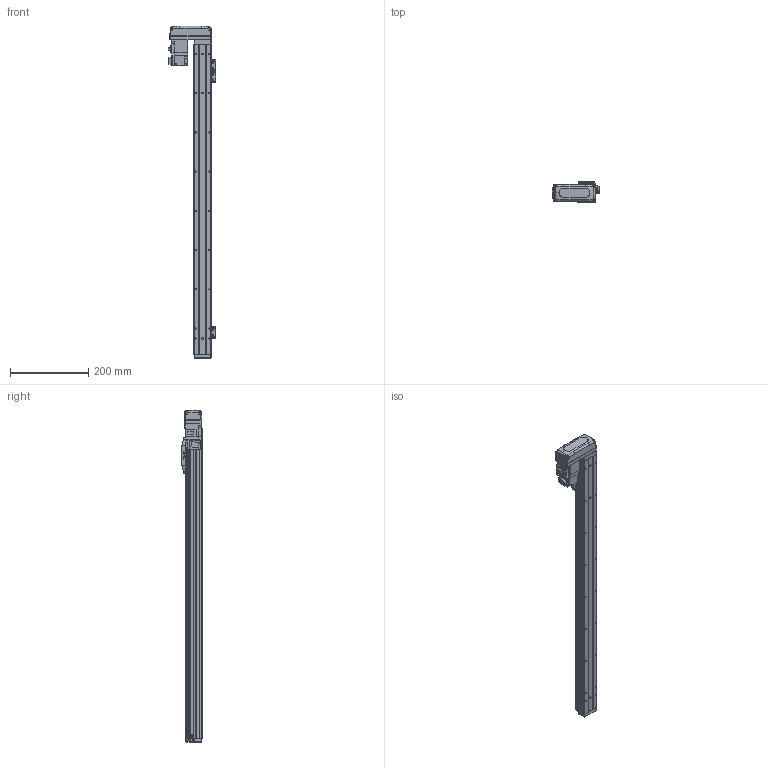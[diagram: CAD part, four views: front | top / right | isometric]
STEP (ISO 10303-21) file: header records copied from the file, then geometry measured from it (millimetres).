
FILE_DESCRIPTION (( 'STEP AP203' ), '1' );
FILE_NAME ('GTH4-650-BR-M05-C4.step', '2023-08-28T00:44:51', ( '微软用户' ), ( '微软中国' ), 'SwSTEP 2.0', 'SolidWorks 2020', '' );
FILE_SCHEMA (( 'CONFIG_CONTROL_DESIGN' ));
Length unit declared in the file: millimetre
Products named in the file (19): GBT 70.1-M3℅6; GBT 70.3-M3℅6; BTH40-006; GBT96.1-2002 3×0.8; BTH40-027-1; BTH-M3X5X6; BTH40-022; BTH50-026; GBT70.1-2000 M3×16; GBT 70.1-M2.5×6; GTH4-650-BR-M05-C4; BTH50-028; BTH40-004; BTH50-023; BTH40-013; BTH40-001-50_BTH40-001-650; BTH50-024; HG-KR13; BTH40-003
Assembly tree (47 placements, depth 2):
  GTH4-650-BR-M05-C4
    BTH40-001-50_BTH40-001-650
    BTH40-003
    BTH40-006
    BTH-M3X5X6  x8
    GBT70.1-2000 M3×16  x4
    BTH50-028  x2
    BTH50-023  x3
    BTH50-024  x3
    GBT 70.1-M3℅6  x6
    GBT96.1-2002 3×0.8  x6
    BTH40-022
    GBT 70.1-M2.5×6  x2
    BTH40-004
    BTH40-013
    HG-KR13
    GBT 70.3-M3℅6  x4
    BTH40-027-1
    BTH50-026
Bounding box: 120 x 52 x 846 mm (x, y, z)
Volume: 1499001.4 mm3; surface area: 256985 mm2
Topology: 49 solids, 49 shells, 1991 faces, 4683 edges, 2882 vertices
Faces by surface type: plane 1052, cylinder 503, cone 270, torus 128, bspline 34, sphere 4
Entity records: 39987 total; most frequent: CARTESIAN_POINT 7642, DIRECTION 6280, ORIENTED_EDGE 6012, EDGE_CURVE 3006, AXIS2_PLACEMENT_3D 2155, VECTOR 1970, LINE 1970, VERTEX_POINT 1869
